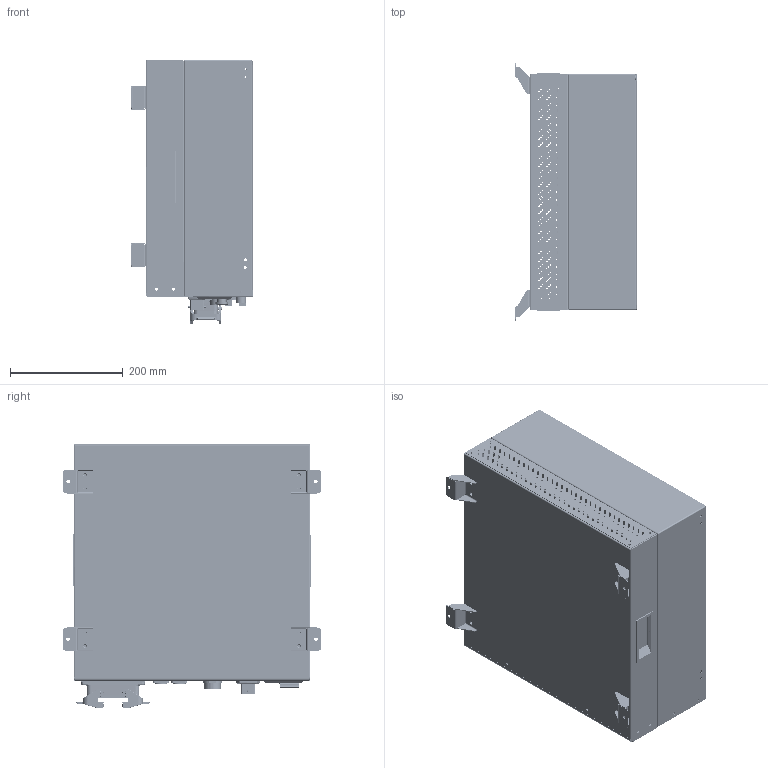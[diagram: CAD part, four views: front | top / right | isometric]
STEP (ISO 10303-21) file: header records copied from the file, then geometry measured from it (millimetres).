
FILE_DESCRIPTION(/* description */ (''),/* implementation_level */ '2;1');
FILE_NAME(/* name */ 'A2.01.stp',/* time_stamp */ '2024-10-21T14:10:48+08:00',/* author */ (''),/* organization */ (''),/* preprocessor_version */ 'ST-DEVELOPER v16.7',/* originating_system */ 'SIEMENS PLM Software NX 12.0',/* authorisation */ '');
FILE_SCHEMA (('AUTOMOTIVE_DESIGN { 1 0 10303 214 3 1 1 1 }'));
Products named in the file (1): A2.01
Bounding box: 217.7 x 457 x 469.8 mm (x, y, z)
Volume: 1776357.8 mm3; surface area: 1999661.7 mm2
Topology: 84 solids, 92 shells, 18900 faces, 53954 edges, 35503 vertices
Faces by surface type: plane 13838, cylinder 4490, cone 226, bspline 216, sphere 82, torus 48
Full cylindrical faces by diameter (mm): 1 x36, 2.1 x2, 2.5 x14, 3 x40, 3.2 x73, 3.4 x10, 3.5 x4, 4 x2, 4.5 x2, 5 x34, 5.5 x11, 6.5 x9, 7.2 x4, 8.75 x8, 12.7 x3, 13 x2, 16 x2, 17.3 x4, 22 x4, 23.8 x4, 25 x4, 29.5 x1
Entity records: 623174 total; most frequent: CARTESIAN_POINT 117986, ORIENTED_EDGE 107022, DIRECTION 98876, EDGE_CURVE 53511, LINE 43878, VECTOR 43878, VERTEX_POINT 35451, AXIS2_PLACEMENT_3D 27499
